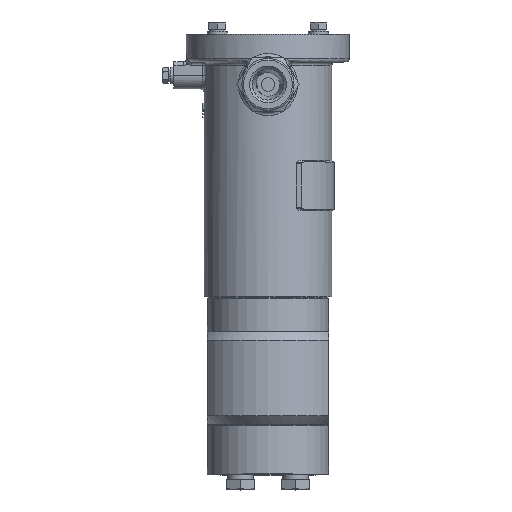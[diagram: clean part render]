
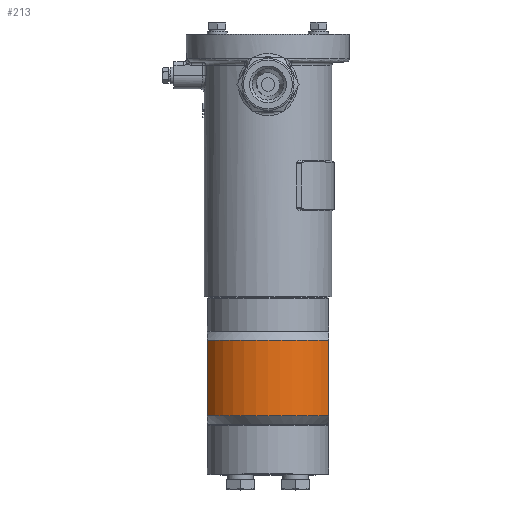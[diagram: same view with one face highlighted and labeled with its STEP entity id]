
A CAD part, top view. The second image highlights one B-rep face of the part: STEP entity #213.
In plain terms, the highlighted cylindrical face has radius 42.5 mm (diameter 85 mm), a partial arc.
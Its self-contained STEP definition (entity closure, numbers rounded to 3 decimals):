
#213=ADVANCED_FACE('',(#4974),#4976,.T.);
#4974=FACE_OUTER_BOUND('',#4975,.T.);
#4975=EDGE_LOOP('',(#18694,#18695,#18696,#18697));
#4976=CYLINDRICAL_SURFACE('',#4977,42.5);
#4977=AXIS2_PLACEMENT_3D('',#4978,#4979,#4980);
#4978=CARTESIAN_POINT('',(0.,27.,0.));
#4979=DIRECTION('',(0.,-1.,0.));
#4980=DIRECTION('',(1.,0.,0.));
#18694=ORIENTED_EDGE('',*,*,#29304,.T.);
#18695=ORIENTED_EDGE('',*,*,#29320,.T.);
#18696=ORIENTED_EDGE('',*,*,#29309,.T.);
#18697=ORIENTED_EDGE('',*,*,#29306,.F.);
#29304=EDGE_CURVE('',#33819,#33817,#33820,.F.);
#29306=EDGE_CURVE('',#33819,#33822,#33823,.T.);
#29309=EDGE_CURVE('',#33827,#33822,#33828,.T.);
#29320=EDGE_CURVE('',#33817,#33827,#33844,.T.);
#33817=VERTEX_POINT('',#42745);
#33819=VERTEX_POINT('',#42773);
#33820=LINE('',#42774,#42775);
#33822=VERTEX_POINT('',#42808);
#33823=CIRCLE('',#42809,42.5);
#33827=VERTEX_POINT('',#42849);
#33828=LINE('',#42850,#42851);
#33844=CIRCLE('',#42969,42.5);
#42745=CARTESIAN_POINT('',(36.,27.,22.589));
#42773=CARTESIAN_POINT('',(36.,-18.,22.589));
#42774=CARTESIAN_POINT('',(36.,27.,22.589));
#42775=VECTOR('',#42776,1.);
#42776=DIRECTION('',(0.,-1.,0.));
#42808=CARTESIAN_POINT('',(-36.,-18.,22.589));
#42809=AXIS2_PLACEMENT_3D('',#42810,#42811,#42812);
#42810=CARTESIAN_POINT('',(0.,-18.,0.));
#42811=DIRECTION('',(0.,-1.,0.));
#42812=DIRECTION('',(0.847,0.,0.531));
#42849=CARTESIAN_POINT('',(-36.,27.,22.589));
#42850=CARTESIAN_POINT('',(-36.,27.,22.589));
#42851=VECTOR('',#42852,1.);
#42852=DIRECTION('',(0.,-1.,0.));
#42969=AXIS2_PLACEMENT_3D('',#42970,#42971,#42972);
#42970=CARTESIAN_POINT('',(0.,27.,0.));
#42971=DIRECTION('',(0.,-1.,0.));
#42972=DIRECTION('',(0.847,0.,0.531));
